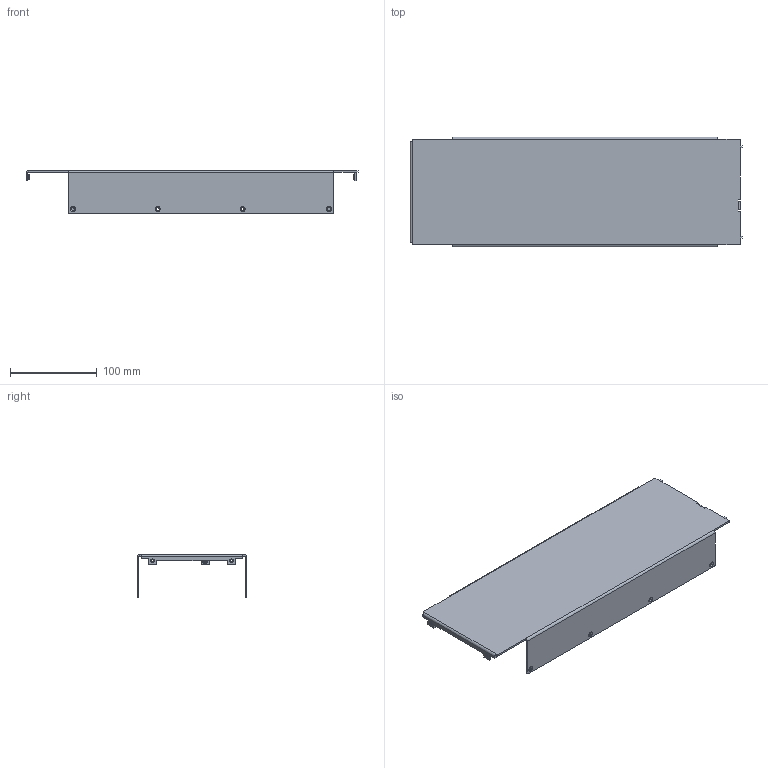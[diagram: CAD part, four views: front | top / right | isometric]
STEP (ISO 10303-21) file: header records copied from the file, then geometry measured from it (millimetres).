
FILE_DESCRIPTION(/* description */ ('','CAx-IF Rec.Pracs.---Representation and Presentation of Product Manufacturing Information (PMI)---4.0---2014-10-13'),/* implementation_level */ '2;1');
FILE_NAME(/* name */ 'G:\Alle CAD Daten\CAMTEC_2020_Pack and Go\PSU CPS-i3000 - CPS-i2000\2021053003.stp',/* time_stamp */ '2020-09-20T20:40:14+02:00',/* author */ ('rryba'),/* organization */ (''),/* preprocessor_version */ 'ST-DEVELOPER v18.1',/* originating_system */ 'Autodesk Inventor 2021',/* authorisation */ '');
FILE_SCHEMA (('AP242_MANAGED_MODEL_BASED_3D_ENGINEERING_MIM_LF { 1 0 10303 442 1 1 4 }'));
Length unit declared in the file: millimetre
Products named in the file (1): 2021053003
Bounding box: 383 x 126.4 x 49.5 mm (x, y, z)
Volume: 154133.2 mm3; surface area: 157278.5 mm2
Topology: 4 solids, 4 shells, 122 faces, 366 edges, 326 vertices
Faces by surface type: plane 67, cylinder 44, cone 8, torus 3
Full cylindrical faces by diameter (mm): 2.459 x3, 3.4 x8, 4.2 x6, 5.9 x8, 6.3 x3
Entity records: 3963 total; most frequent: CARTESIAN_POINT 734, DIRECTION 648, ORIENTED_EDGE 570, EDGE_CURVE 285, AXIS2_PLACEMENT_3D 230, LINE 188, VECTOR 188, VERTEX_POINT 174
